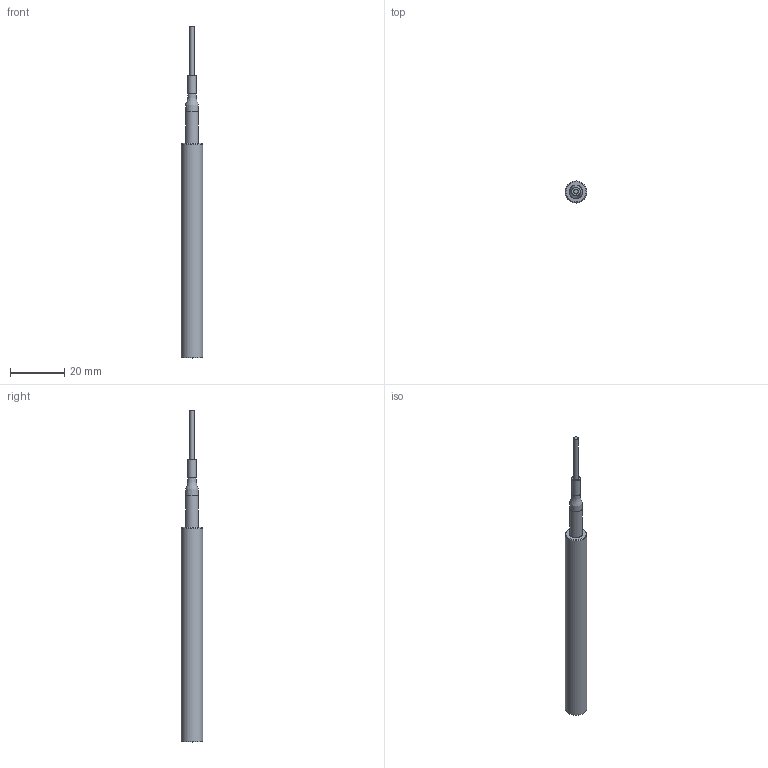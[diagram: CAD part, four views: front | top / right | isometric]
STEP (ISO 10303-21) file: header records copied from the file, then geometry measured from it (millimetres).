
FILE_DESCRIPTION((''),'2;1');
FILE_NAME('Y:\Konstruktion\GTProjekte\ME\Standartsensoren\IFS2403\IFS2403-10.stp','2013-01-17T09:10:11',('sven'),(''),'Autodesk Inventor 2012','Autodesk Inventor 2012','');
FILE_SCHEMA(('AUTOMOTIVE_DESIGN { 1 0 10303 214 1 1 1 1 }'));
Length unit declared in the file: inch
Products named in the file (5): IFS2403-10; faser; Schrumpfschlauch; ME_S8mm_TypB; 350280
Assembly tree (4 placements, depth 2):
  IFS2403-10
    faser
    Schrumpfschlauch
    ME_S8mm_TypB
    350280
Bounding box: 8 x 8 x 122.24 mm (x, y, z)
Volume: 2567.1 mm3; surface area: 4223 mm2
Topology: 3 solids, 4 shells, 28 faces, 50 edges, 33 vertices
Faces by surface type: cylinder 11, plane 11, revolution 2, cone 2, sphere 2
Full cylindrical faces by diameter (mm): 0.4 x1, 1.6 x1, 1.712 x1, 2.5 x1, 3.14 x1, 4.695 x1, 5 x1, 5.5 x1, 6.5 x1, 7.2 x1, 8 x1
Entity records: 866 total; most frequent: CARTESIAN_POINT 186, DIRECTION 128, ORIENTED_EDGE 64, AXIS2_PLACEMENT_3D 63, EDGE_LOOP 50, EDGE_CURVE 32, VERTEX_POINT 30, CIRCLE 28
